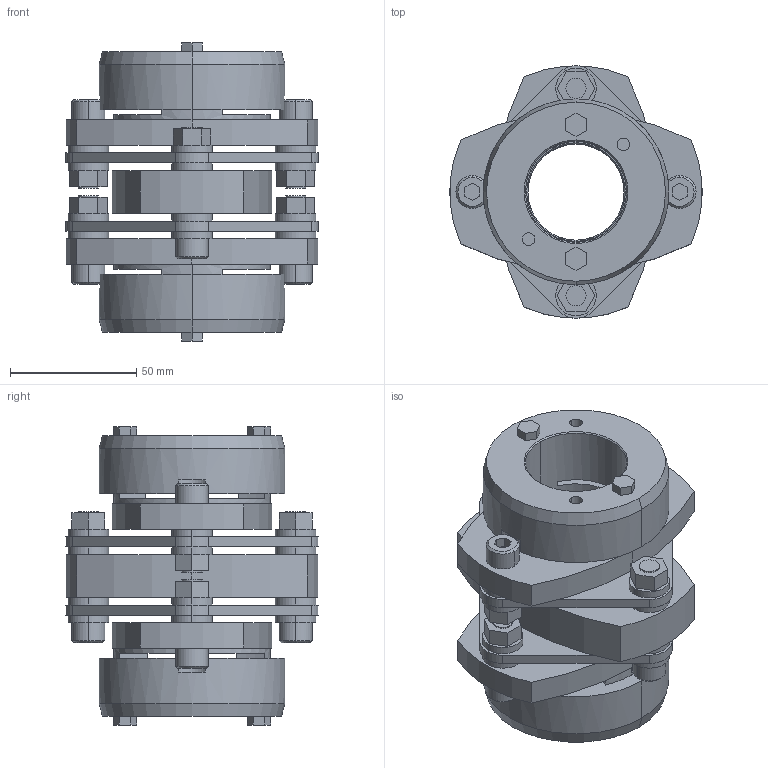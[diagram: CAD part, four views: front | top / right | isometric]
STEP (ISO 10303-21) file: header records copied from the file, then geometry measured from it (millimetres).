
FILE_DESCRIPTION((''),'2;1');
FILE_NAME('LCD-100T7-38×40.stp','2011-09-09T09:07:03',(''),(''),'AutoCAD STEP 2000i','AutoCAD 2000i',', , ');
FILE_SCHEMA(('CONFIG_CONTROL_DESIGN'));
Length unit declared in the file: millimetre
Products named in the file (10): LCD-100T7-38×38; 忣兜1; LC100T7-T038-1; LC100T7-T038; LC100T7-T035; LC100T7-T030; LC100T7-T025; LC100T7-T022-1; LC100T7-T022; LCD100-ITA
Assembly tree (9 placements, depth 2):
  LCD-100T7-38×38
    忣兜1
    LC100T7-T038-1
    LC100T7-T038
    LC100T7-T035
    LC100T7-T030
    LC100T7-T025
    LC100T7-T022-1
    LC100T7-T022
    LCD100-ITA
Bounding box: 100 x 99.93 x 118 mm (x, y, z)
Volume: 354855.8 mm3; surface area: 92000 mm2
Topology: 1 solids, 1 shells, 314 faces, 768 edges, 504 vertices
Faces by surface type: plane 166, cylinder 124, cone 24
Entity records: 9569 total; most frequent: DIRECTION 1712, CARTESIAN_POINT 1596, ORIENTED_EDGE 1536, EDGE_CURVE 768, AXIS2_PLACEMENT_3D 620, VERTEX_POINT 504, VECTOR 472, LINE 472
